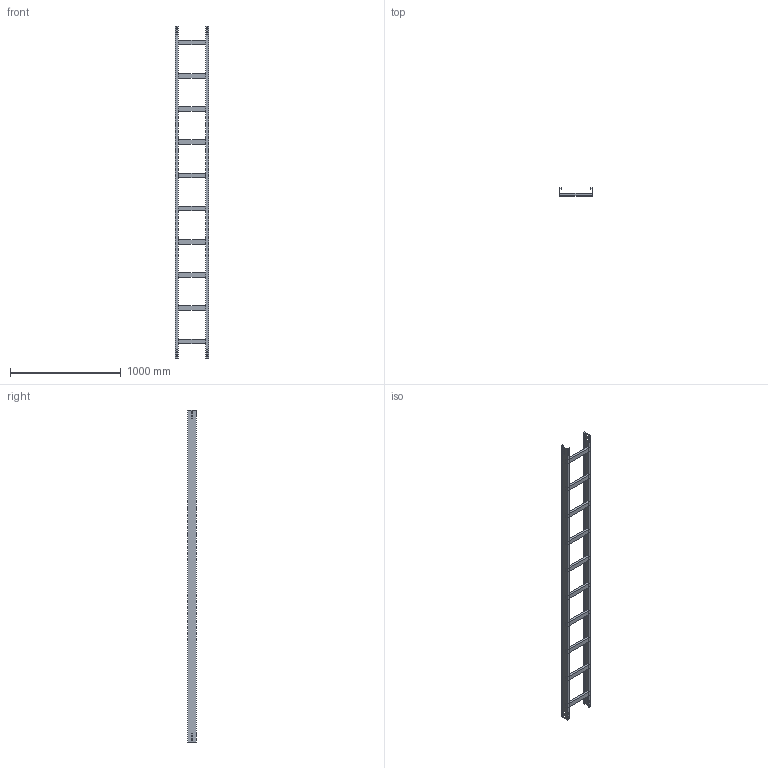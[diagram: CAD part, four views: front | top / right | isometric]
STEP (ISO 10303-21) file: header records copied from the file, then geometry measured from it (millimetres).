
FILE_DESCRIPTION (( 'STEP AP214' ), '1' );
FILE_NAME ('01B3C300.step', '2025-02-21T16:00:47', ( '' ), ( '' ), 'SwSTEP 2.0', 'SolidWorks 2023', '' );
FILE_SCHEMA (( 'AUTOMOTIVE_DESIGN' ));
Length unit declared in the file: millimetre
Products named in the file (3): TRAVERSINO_300; LONGH.H75; 01B3C300
Assembly tree (12 placements, depth 2):
  01B3C300
    LONGH.H75  x2
    TRAVERSINO_300  x10
Bounding box: 300 x 75 x 3000 mm (x, y, z)
Volume: 4744672 mm3; surface area: 1788856 mm2
Topology: 12 solids, 12 shells, 144 faces, 360 edges, 240 vertices
Faces by surface type: plane 144
Entity records: 1696 total; most frequent: CARTESIAN_POINT 283, ORIENTED_EDGE 264, DIRECTION 258, EDGE_CURVE 132, LINE 132, VECTOR 132, VERTEX_POINT 88, EDGE_LOOP 64
